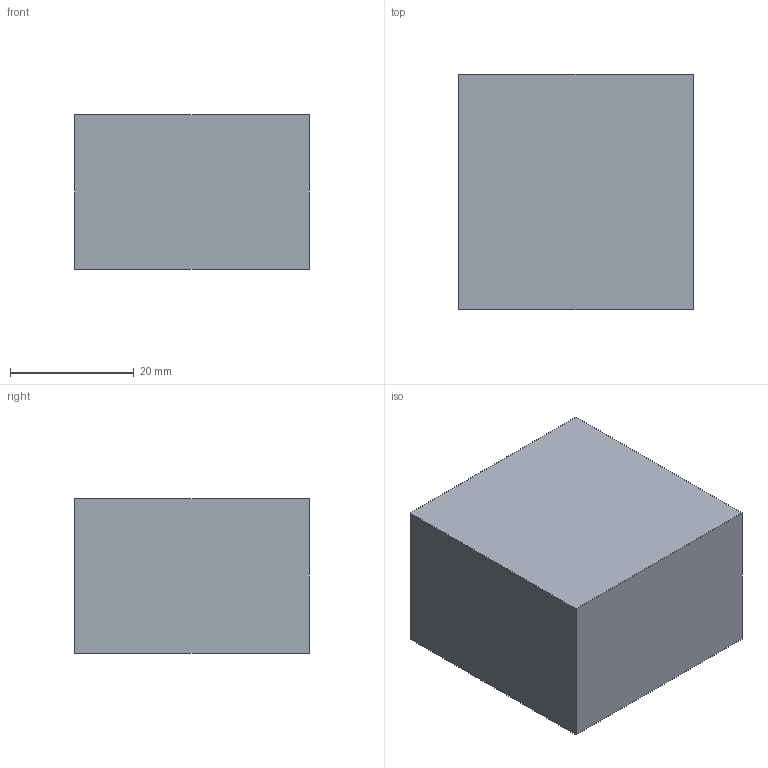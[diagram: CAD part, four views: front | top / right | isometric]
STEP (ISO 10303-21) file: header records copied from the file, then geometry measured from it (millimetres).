
FILE_DESCRIPTION (( 'STEP AP203' ), '1' );
FILE_NAME ('FTNES06.STEP', '2026-06-26T01:18:54', ( 'USER' ), ( '' ), 'SwSTEP 2.0', 'SolidWorks 2023', '' );
FILE_SCHEMA (( 'CONFIG_CONTROL_DESIGN' ));
Length unit declared in the file: millimetre
Products named in the file (1): FTNES06
Bounding box: 38 x 38 x 25 mm (x, y, z)
Volume: 28635.4 mm3; surface area: 8560 mm2
Topology: 1 solids, 1 shells, 34 faces, 72 edges, 42 vertices
Faces by surface type: cone 12, cylinder 12, plane 10
Entity records: 985 total; most frequent: CARTESIAN_POINT 173, DIRECTION 166, ORIENTED_EDGE 144, EDGE_CURVE 72, AXIS2_PLACEMENT_3D 67, VERTEX_POINT 42, EDGE_LOOP 38, FACE_OUTER_BOUND 34
